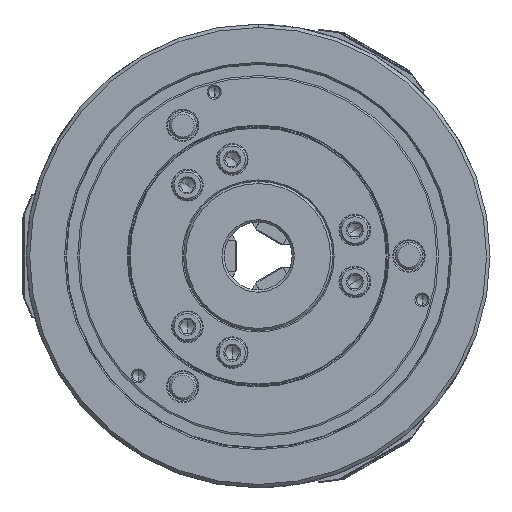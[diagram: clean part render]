
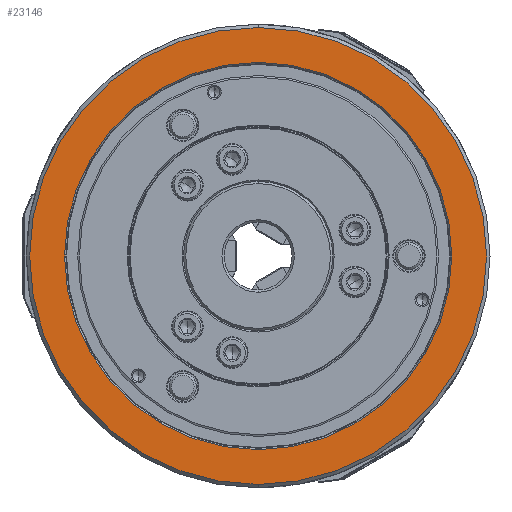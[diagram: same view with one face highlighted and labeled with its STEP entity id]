
A CAD part, left-side view. The second image highlights one B-rep face of the part: STEP entity #23146.
In plain terms, the highlighted planar face has unit normal (-1, 0, 0).
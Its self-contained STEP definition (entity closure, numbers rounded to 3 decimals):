
#424 = ORIENTED_EDGE ( 'NONE', *, *, #38323, .T. ) ;
#3592 = DIRECTION ( 'NONE',  ( -1., 0., 0. ) ) ;
#8408 = CARTESIAN_POINT ( 'NONE',  ( -91., 0., 0. ) ) ;
#11888 = ORIENTED_EDGE ( 'NONE', *, *, #48606, .F. ) ;
#12524 = CIRCLE ( 'NONE', #31897, 101. ) ;
#13577 = CIRCLE ( 'NONE', #48035, 85.6 ) ;
#14612 = VERTEX_POINT ( 'NONE', #23003 ) ;
#23003 = CARTESIAN_POINT ( 'NONE',  ( -91., 0., 85.6 ) ) ;
#23146 = ADVANCED_FACE ( 'NONE', ( #69229, #31716 ), #26545, .T. ) ;
#24752 = VERTEX_POINT ( 'NONE', #56873 ) ;
#25936 = CARTESIAN_POINT ( 'NONE',  ( -91., 0., 0. ) ) ;
#26545 = PLANE ( 'NONE',  #91925 ) ;
#30427 = DIRECTION ( 'NONE',  ( 1., 0., 0. ) ) ;
#31716 = FACE_OUTER_BOUND ( 'NONE', #41573, .T. ) ;
#31897 = AXIS2_PLACEMENT_3D ( 'NONE', #81903, #75329, #69689 ) ;
#38192 = CARTESIAN_POINT ( 'NONE',  ( -91., 0., -101. ) ) ;
#38225 = ORIENTED_EDGE ( 'NONE', *, *, #68726, .F. ) ;
#38323 = EDGE_CURVE ( 'NONE', #67291, #14612, #73506, .T. ) ;
#40555 = CIRCLE ( 'NONE', #69019, 101. ) ;
#41573 = EDGE_LOOP ( 'NONE', ( #11888, #38225 ) ) ;
#48035 = AXIS2_PLACEMENT_3D ( 'NONE', #8408, #30427, #59479 ) ;
#48606 = EDGE_CURVE ( 'NONE', #65751, #24752, #12524, .T. ) ;
#51199 = EDGE_LOOP ( 'NONE', ( #80499, #424 ) ) ;
#56873 = CARTESIAN_POINT ( 'NONE',  ( -91., 0., 101. ) ) ;
#59479 = DIRECTION ( 'NONE',  ( 0., 0., -1. ) ) ;
#60766 = DIRECTION ( 'NONE',  ( 0., 0., 1. ) ) ;
#61038 = DIRECTION ( 'NONE',  ( 1., 0., 0. ) ) ;
#62434 = DIRECTION ( 'NONE',  ( 0., 0., -1. ) ) ;
#65751 = VERTEX_POINT ( 'NONE', #38192 ) ;
#67291 = VERTEX_POINT ( 'NONE', #79874 ) ;
#68726 = EDGE_CURVE ( 'NONE', #24752, #65751, #40555, .T. ) ;
#69019 = AXIS2_PLACEMENT_3D ( 'NONE', #83570, #61038, #62434 ) ;
#69229 = FACE_BOUND ( 'NONE', #51199, .T. ) ;
#69689 = DIRECTION ( 'NONE',  ( 0., 0., -1. ) ) ;
#70489 = AXIS2_PLACEMENT_3D ( 'NONE', #25936, #83142, #83602 ) ;
#73506 = CIRCLE ( 'NONE', #70489, 85.6 ) ;
#75322 = CARTESIAN_POINT ( 'NONE',  ( -91., 101., 0. ) ) ;
#75329 = DIRECTION ( 'NONE',  ( 1., 0., 0. ) ) ;
#79874 = CARTESIAN_POINT ( 'NONE',  ( -91., 0., -85.6 ) ) ;
#80499 = ORIENTED_EDGE ( 'NONE', *, *, #86998, .T. ) ;
#81903 = CARTESIAN_POINT ( 'NONE',  ( -91., 0., 0. ) ) ;
#83142 = DIRECTION ( 'NONE',  ( 1., 0., 0. ) ) ;
#83570 = CARTESIAN_POINT ( 'NONE',  ( -91., 0., 0. ) ) ;
#83602 = DIRECTION ( 'NONE',  ( 0., 0., -1. ) ) ;
#86998 = EDGE_CURVE ( 'NONE', #14612, #67291, #13577, .T. ) ;
#91925 = AXIS2_PLACEMENT_3D ( 'NONE', #75322, #3592, #60766 ) ;
